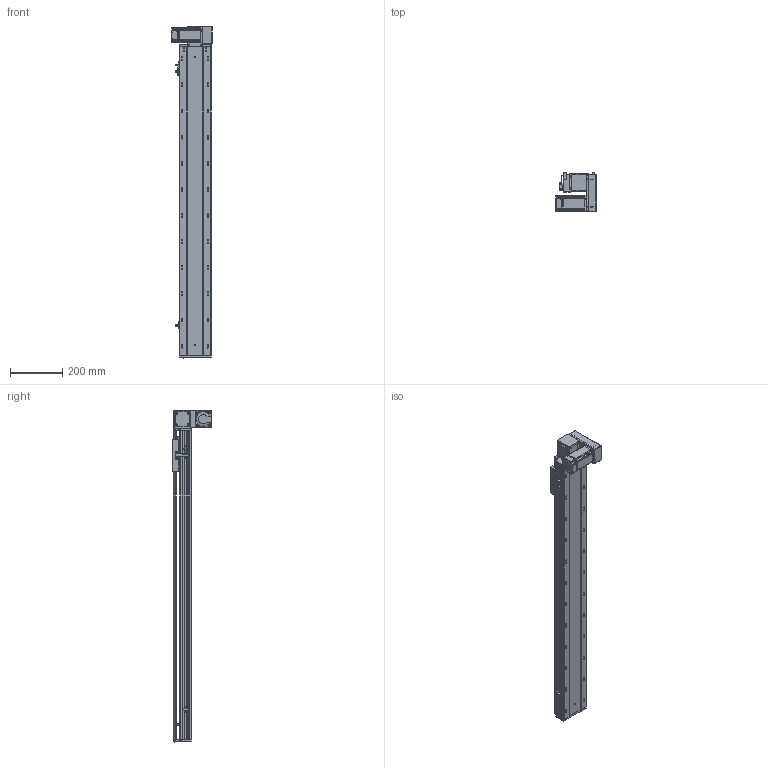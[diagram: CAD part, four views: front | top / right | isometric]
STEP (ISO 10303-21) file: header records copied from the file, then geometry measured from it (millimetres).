
FILE_DESCRIPTION (( 'STEP AP203' ), '1' );
FILE_NAME ('RY120-T-300-DR.SLDASM_950.step', '2021-03-01T03:35:39', ( '盈信电脑' ), ( '东莞市道滘镇水果街19号' ), 'SwSTEP 2.0', 'SolidWorks 2012', '' );
FILE_SCHEMA (( 'CONFIG_CONTROL_DESIGN' ));
Products named in the file (17): RY120-T-300-DR.SLDASM_950; RY120-T萇儂欶; RY120-T主同步轮轴承压盖; 15; RY120-T蹟翐M4; RY120-T萇儂假蚾啣; RY120-T翋肮祭盓傅釱; RY120-T肮祭湍揤踡輸2; RY120-T翋肮祭謫裔啣; 滅袉蝶18-10; RY120綴裔啣; RY120外置感应片(140共用）; RY120-T肮祭湍揤踡輸1; 覜茼ん672; RY120-T-300-DR倰第菁釱_950; RY120-T-300-DR倰第奻裔啣_950; RY120肮祭湍臏賑輸
Assembly tree (22 placements, depth 2):
  RY120-T-300-DR.SLDASM_950
    RY120-T-300-DR倰第菁釱_950
    RY120-T-300-DR倰第奻裔啣_950
    RY120肮祭湍臏賑輸
    RY120綴裔啣
    覜茼ん672  x3
    RY120外置感应片(140共用）
    RY120-T肮祭湍揤踡輸1
    RY120-T肮祭湍揤踡輸2
    RY120-T翋肮祭盓傅釱
    滅袉蝶18-10  x2
    RY120-T翋肮祭謫裔啣
    15
    RY120-T萇儂假蚾啣
    RY120-T蹟翐M4  x4
    RY120-T萇儂欶
    RY120-T主同步轮轴承压盖
Bounding box: 155.5 x 150 x 1271 mm (x, y, z)
Volume: 3499203.2 mm3; surface area: 1309203.1 mm2
Topology: 23 solids, 23 shells, 3022 faces, 8324 edges, 5356 vertices
Faces by surface type: plane 1466, cylinder 1210, cone 257, bspline 89
Entity records: 98663 total; most frequent: CARTESIAN_POINT 26442, ORIENTED_EDGE 15080, DIRECTION 13986, EDGE_CURVE 7540, VERTEX_POINT 4943, AXIS2_PLACEMENT_3D 4719, VECTOR 4548, LINE 4548
